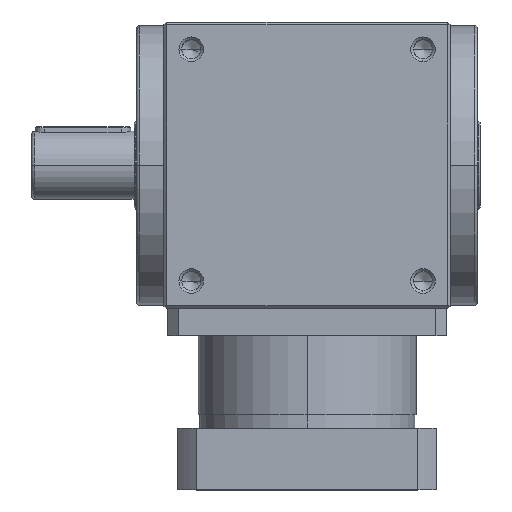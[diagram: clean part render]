
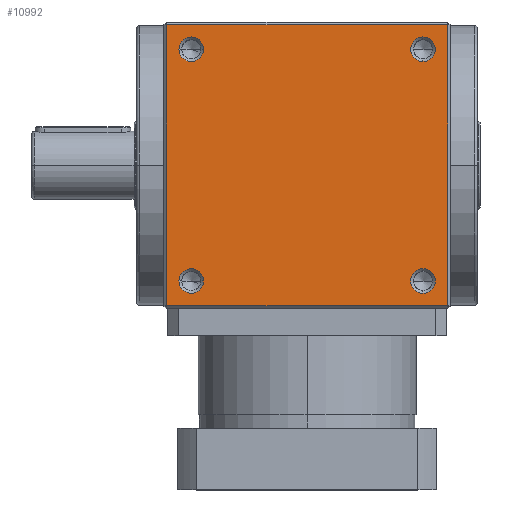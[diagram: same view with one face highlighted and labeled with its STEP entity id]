
A CAD part, top view. The second image highlights one B-rep face of the part: STEP entity #10992.
In plain terms, the highlighted planar face has unit normal (0, 0, 1).
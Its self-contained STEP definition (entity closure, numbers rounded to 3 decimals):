
#220 = CARTESIAN_POINT ( 'NONE',  ( 0., 103., 105. ) ) ;
#286 = DIRECTION ( 'NONE',  ( 0., 0., 1. ) ) ;
#315 = LINE ( 'NONE', #7372, #377 ) ;
#334 = VERTEX_POINT ( 'NONE', #1342 ) ;
#345 = EDGE_LOOP ( 'NONE', ( #820, #3230, #2261, #7074 ) ) ;
#377 = VECTOR ( 'NONE', #7328, 1000. ) ;
#453 = EDGE_LOOP ( 'NONE', ( #4248, #7629 ) ) ;
#569 = CARTESIAN_POINT ( 'NONE',  ( -103., 103., 105. ) ) ;
#595 = VECTOR ( 'NONE', #10680, 1000. ) ;
#603 = CARTESIAN_POINT ( 'NONE',  ( -76., -85., 105. ) ) ;
#678 = ORIENTED_EDGE ( 'NONE', *, *, #11655, .F. ) ;
#820 = ORIENTED_EDGE ( 'NONE', *, *, #1332, .F. ) ;
#1032 = EDGE_CURVE ( 'NONE', #6629, #334, #4274, .T. ) ;
#1034 = FACE_OUTER_BOUND ( 'NONE', #345, .T. ) ;
#1051 = EDGE_CURVE ( 'NONE', #10441, #7346, #8894, .T. ) ;
#1072 = EDGE_CURVE ( 'NONE', #10971, #11226, #6146, .T. ) ;
#1073 = EDGE_CURVE ( 'NONE', #8803, #3465, #7403, .T. ) ;
#1088 = EDGE_CURVE ( 'NONE', #6457, #6624, #7433, .T. ) ;
#1159 = EDGE_CURVE ( 'NONE', #334, #5892, #315, .T. ) ;
#1318 = EDGE_LOOP ( 'NONE', ( #6264, #678 ) ) ;
#1332 = EDGE_CURVE ( 'NONE', #11818, #6629, #6091, .T. ) ;
#1342 = CARTESIAN_POINT ( 'NONE',  ( -103., -103., 105. ) ) ;
#1491 = CARTESIAN_POINT ( 'NONE',  ( -85., -85., 105. ) ) ;
#1502 = CARTESIAN_POINT ( 'NONE',  ( 103., 103., 105. ) ) ;
#1609 = CARTESIAN_POINT ( 'NONE',  ( 85., -76., 105. ) ) ;
#1674 = EDGE_CURVE ( 'NONE', #11818, #5892, #7138, .T. ) ;
#1720 = CARTESIAN_POINT ( 'NONE',  ( -94., 85., 105. ) ) ;
#1849 = EDGE_CURVE ( 'NONE', #11226, #10971, #9718, .T. ) ;
#2208 = DIRECTION ( 'NONE',  ( 0., -1., 0. ) ) ;
#2244 = DIRECTION ( 'NONE',  ( 0., 0., 1. ) ) ;
#2261 = ORIENTED_EDGE ( 'NONE', *, *, #1159, .F. ) ;
#2279 = CARTESIAN_POINT ( 'NONE',  ( 85., -85., 105. ) ) ;
#2384 = CARTESIAN_POINT ( 'NONE',  ( -85., 85., 105. ) ) ;
#2395 = DIRECTION ( 'NONE',  ( 1., 0., 0. ) ) ;
#2463 = DIRECTION ( 'NONE',  ( 1., 0., 0. ) ) ;
#2493 = EDGE_CURVE ( 'NONE', #7346, #10441, #8352, .T. ) ;
#2496 = CARTESIAN_POINT ( 'NONE',  ( 103., -103., 105. ) ) ;
#2501 = DIRECTION ( 'NONE',  ( 0., 0., 1. ) ) ;
#2948 = CARTESIAN_POINT ( 'NONE',  ( -85., -85., 105. ) ) ;
#2961 = DIRECTION ( 'NONE',  ( 0., 0., -1. ) ) ;
#3096 = DIRECTION ( 'NONE',  ( 0., -1., 0. ) ) ;
#3143 = EDGE_LOOP ( 'NONE', ( #7688, #9959 ) ) ;
#3149 = AXIS2_PLACEMENT_3D ( 'NONE', #5830, #286, #6774 ) ;
#3223 = DIRECTION ( 'NONE',  ( 0., 0., 1. ) ) ;
#3230 = ORIENTED_EDGE ( 'NONE', *, *, #1674, .T. ) ;
#3266 = CARTESIAN_POINT ( 'NONE',  ( 85., 85., 105. ) ) ;
#3294 = DIRECTION ( 'NONE',  ( 1., 0., 0. ) ) ;
#3406 = AXIS2_PLACEMENT_3D ( 'NONE', #3421, #9958, #4381 ) ;
#3421 = CARTESIAN_POINT ( 'NONE',  ( 85., 85., 105. ) ) ;
#3465 = VERTEX_POINT ( 'NONE', #8955 ) ;
#3611 = FACE_BOUND ( 'NONE', #1318, .T. ) ;
#3642 = CARTESIAN_POINT ( 'NONE',  ( -76., 85., 105. ) ) ;
#3707 = AXIS2_PLACEMENT_3D ( 'NONE', #8547, #2961, #9519 ) ;
#4016 = CARTESIAN_POINT ( 'NONE',  ( 85., -94., 105. ) ) ;
#4248 = ORIENTED_EDGE ( 'NONE', *, *, #1051, .F. ) ;
#4274 = LINE ( 'NONE', #8700, #595 ) ;
#4366 = ORIENTED_EDGE ( 'NONE', *, *, #1849, .F. ) ;
#4381 = DIRECTION ( 'NONE',  ( 0., -1., 0. ) ) ;
#5114 = CIRCLE ( 'NONE', #3149, 9. ) ;
#5384 = VECTOR ( 'NONE', #6714, 1000. ) ;
#5429 = ORIENTED_EDGE ( 'NONE', *, *, #1072, .F. ) ;
#5588 = AXIS2_PLACEMENT_3D ( 'NONE', #1491, #7965, #2395 ) ;
#5711 = PLANE ( 'NONE',  #3707 ) ;
#5830 = CARTESIAN_POINT ( 'NONE',  ( 85., -85., 105. ) ) ;
#5892 = VERTEX_POINT ( 'NONE', #569 ) ;
#5928 = FACE_BOUND ( 'NONE', #6732, .T. ) ;
#6091 = LINE ( 'NONE', #6381, #8492 ) ;
#6146 = CIRCLE ( 'NONE', #7827, 9. ) ;
#6264 = ORIENTED_EDGE ( 'NONE', *, *, #1088, .F. ) ;
#6381 = CARTESIAN_POINT ( 'NONE',  ( 103., 0., 105. ) ) ;
#6457 = VERTEX_POINT ( 'NONE', #4016 ) ;
#6624 = VERTEX_POINT ( 'NONE', #1609 ) ;
#6629 = VERTEX_POINT ( 'NONE', #2496 ) ;
#6714 = DIRECTION ( 'NONE',  ( -1., 0., 0. ) ) ;
#6732 = EDGE_LOOP ( 'NONE', ( #5429, #4366 ) ) ;
#6774 = DIRECTION ( 'NONE',  ( 0., -1., 0. ) ) ;
#6940 = DIRECTION ( 'NONE',  ( 0., -1., 0. ) ) ;
#6957 = DIRECTION ( 'NONE',  ( 1., 0., 0. ) ) ;
#6998 = DIRECTION ( 'NONE',  ( 0., 0., 1. ) ) ;
#7074 = ORIENTED_EDGE ( 'NONE', *, *, #1032, .F. ) ;
#7119 = CARTESIAN_POINT ( 'NONE',  ( -85., 85., 105. ) ) ;
#7138 = LINE ( 'NONE', #220, #5384 ) ;
#7328 = DIRECTION ( 'NONE',  ( 0., 1., 0. ) ) ;
#7346 = VERTEX_POINT ( 'NONE', #1720 ) ;
#7372 = CARTESIAN_POINT ( 'NONE',  ( -103., 0., 105. ) ) ;
#7403 = CIRCLE ( 'NONE', #9162, 9. ) ;
#7433 = CIRCLE ( 'NONE', #9206, 9. ) ;
#7629 = ORIENTED_EDGE ( 'NONE', *, *, #2493, .F. ) ;
#7688 = ORIENTED_EDGE ( 'NONE', *, *, #1073, .F. ) ;
#7827 = AXIS2_PLACEMENT_3D ( 'NONE', #3266, #3223, #3096 ) ;
#7965 = DIRECTION ( 'NONE',  ( 0., 0., 1. ) ) ;
#8105 = CARTESIAN_POINT ( 'NONE',  ( 85., 94., 105. ) ) ;
#8352 = CIRCLE ( 'NONE', #9869, 9. ) ;
#8492 = VECTOR ( 'NONE', #6940, 1000. ) ;
#8547 = CARTESIAN_POINT ( 'NONE',  ( 0., 0., 105. ) ) ;
#8686 = AXIS2_PLACEMENT_3D ( 'NONE', #7119, #6998, #6957 ) ;
#8700 = CARTESIAN_POINT ( 'NONE',  ( 0., -103., 105. ) ) ;
#8729 = EDGE_CURVE ( 'NONE', #3465, #8803, #9780, .T. ) ;
#8803 = VERTEX_POINT ( 'NONE', #603 ) ;
#8893 = DIRECTION ( 'NONE',  ( 0., 0., 1. ) ) ;
#8894 = CIRCLE ( 'NONE', #8686, 9. ) ;
#8955 = CARTESIAN_POINT ( 'NONE',  ( -94., -85., 105. ) ) ;
#9091 = FACE_BOUND ( 'NONE', #453, .T. ) ;
#9162 = AXIS2_PLACEMENT_3D ( 'NONE', #2948, #2501, #2463 ) ;
#9206 = AXIS2_PLACEMENT_3D ( 'NONE', #2279, #2244, #2208 ) ;
#9471 = CARTESIAN_POINT ( 'NONE',  ( 85., 76., 105. ) ) ;
#9519 = DIRECTION ( 'NONE',  ( -1., 0., 0. ) ) ;
#9718 = CIRCLE ( 'NONE', #3406, 9. ) ;
#9780 = CIRCLE ( 'NONE', #5588, 9. ) ;
#9869 = AXIS2_PLACEMENT_3D ( 'NONE', #2384, #8893, #3294 ) ;
#9958 = DIRECTION ( 'NONE',  ( 0., 0., 1. ) ) ;
#9959 = ORIENTED_EDGE ( 'NONE', *, *, #8729, .F. ) ;
#10441 = VERTEX_POINT ( 'NONE', #3642 ) ;
#10680 = DIRECTION ( 'NONE',  ( -1., 0., 0. ) ) ;
#10785 = FACE_BOUND ( 'NONE', #3143, .T. ) ;
#10971 = VERTEX_POINT ( 'NONE', #9471 ) ;
#10992 = ADVANCED_FACE ( 'NONE', ( #3611, #10785, #5928, #9091, #1034 ), #5711, .F. ) ;
#11226 = VERTEX_POINT ( 'NONE', #8105 ) ;
#11655 = EDGE_CURVE ( 'NONE', #6624, #6457, #5114, .T. ) ;
#11818 = VERTEX_POINT ( 'NONE', #1502 ) ;
